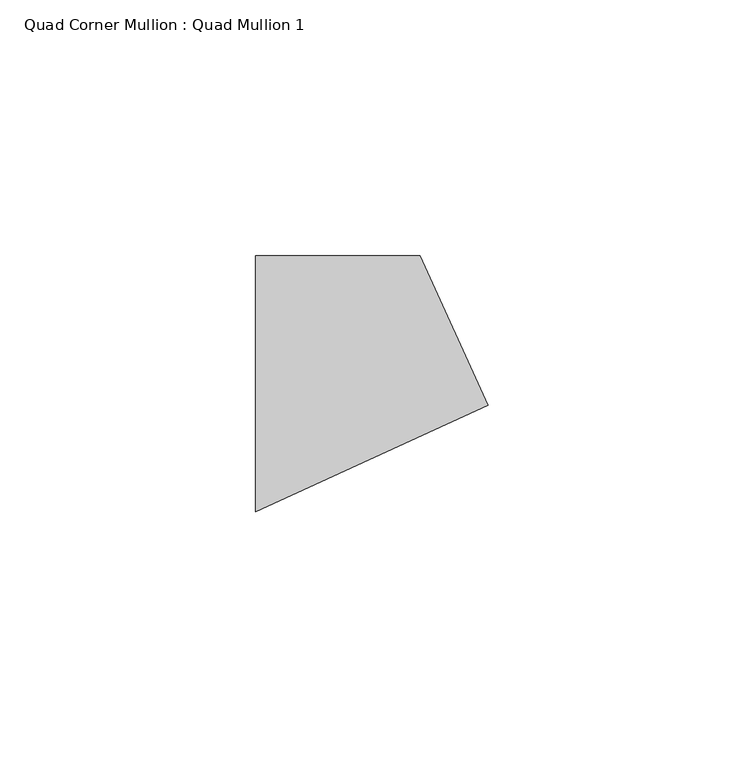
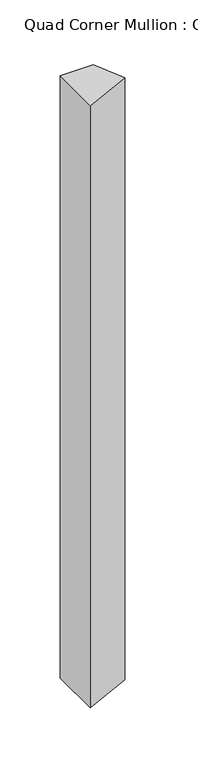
"""IFC4 building model written with IfcOpenShell, lengths in millimetres: member geometry, Quad Corner Mullion : Quad Mullion 1."""

import ifcopenshell
import ifcopenshell.guid

model = None  # the IFC model being written
_history = None  # IfcOwnerHistory: only IFC2X3 demands one
_inside = {}  # id of a spatial element -> (the spatial element, [elements in it])
_under = {}  # id of a project, library or spatial element -> (it, [spatial elements below it])
_declared = {}  # id of a project -> (the project, [libraries it declares])
_typed = {}  # id of a type object -> (the type object, [elements of that type])
_made_of = {}  # id of a material, layer set ... -> (it, [elements and type objects made of it])


def new_model(schema):
    """Start an empty IFC model of exactly this schema.

    Asked for "IFC4X3", IfcOpenShell would pick the latest addendum, in which some entities
    have other attributes; the version numbers below select the first issue.
    IFC2X3 requires an IfcOwnerHistory on every rooted entity: one is made here for all.
    """
    global model, _history
    if schema == "IFC4X3":
        model = ifcopenshell.file(schema_version=(4, 3, 0, 0))
    else:
        model = ifcopenshell.file(schema=schema)
    _inside.clear()
    _under.clear()
    _declared.clear()
    _typed.clear()
    _made_of.clear()
    _history = None
    if model.schema == "IFC2X3":
        org = make("IfcOrganization", Name="unknown")
        user = make(
            "IfcPersonAndOrganization",
            ThePerson=make("IfcPerson", FamilyName="unknown"),
            TheOrganization=org,
        )
        app = make(
            "IfcApplication",
            ApplicationDeveloper=org,
            Version="unknown",
            ApplicationFullName="unknown",
            ApplicationIdentifier="unknown",
        )
        _history = make(
            "IfcOwnerHistory",
            OwningUser=user,
            OwningApplication=app,
            ChangeAction="ADDED",
            CreationDate=0,
        )
    return model


def make(cls, **values):
    """One entity of the class cls with the attributes given. An attribute that is None is left unset."""
    return model.create_entity(
        cls, **{name: value for name, value in values.items() if value is not None}
    )


def rooted(cls, **values):
    """An entity with a GlobalId (a new one), such as an element, a storey or a relation."""
    return make(cls, GlobalId=ifcopenshell.guid.new(), OwnerHistory=_history, **values)


def si_unit(unit_type, name, prefix=None):
    """IfcSIUnit, for example si_unit("LENGTHUNIT", "METRE", prefix="MILLI")."""
    return make("IfcSIUnit", UnitType=unit_type, Prefix=prefix, Name=name)


def assignment(units):
    """IfcUnitAssignment: the units of a project."""
    return None if units is None else make("IfcUnitAssignment", Units=units)


def point(xyz):
    """IfcCartesianPoint."""
    return None if xyz is None else make("IfcCartesianPoint", Coordinates=xyz)


def direction(xyz):
    """IfcDirection."""
    return None if xyz is None else make("IfcDirection", DirectionRatios=xyz)


def frame(location, z_axis=None, x_axis=None):
    """IfcAxis2Placement3D, a coordinate frame: its origin and axes. An axis left out is left unset."""
    return make(
        "IfcAxis2Placement3D",
        Location=point(location),
        Axis=direction(z_axis),
        RefDirection=direction(x_axis),
    )


def origin():
    """The frame at (0, 0, 0) with its axes left unset."""
    return frame((0.0, 0.0, 0.0))


def place(relative_to, where):
    """IfcLocalPlacement: puts the frame where relative to a parent placement (None: the world)."""
    return make(
        "IfcLocalPlacement", PlacementRelTo=relative_to, RelativePlacement=where
    )


def context(
    kind, dimensions, precision=None, world=None, true_north=None, identifier=None
):
    """IfcGeometricRepresentationContext, for example the 3D "Model" context."""
    return make(
        "IfcGeometricRepresentationContext",
        ContextIdentifier=identifier,
        ContextType=kind,
        CoordinateSpaceDimension=dimensions,
        Precision=precision,
        WorldCoordinateSystem=world,
        TrueNorth=true_north,
    )


def project(units=None, contexts=None):
    """IfcProject with its units and contexts."""
    return rooted(
        "IfcProject",
        Name="project",
        RepresentationContexts=contexts,
        UnitsInContext=assignment(units),
    )


def spatial(cls, under=None, at=None, **own):
    """A site, building, storey or space (cls), placed at a placement, below another one or the project."""
    s = rooted(cls, ObjectPlacement=at, **own)
    if under is not None:
        _under.setdefault(under.id(), (under, []))[1].append(s)
    return s


def polyline(points):
    """IfcPolyline through the points."""
    return make("IfcPolyline", Points=[point(p) for p in points])


def outline(outer, holes=None, kind="AREA"):
    """IfcArbitraryClosedProfileDef: a profile drawn as a closed curve; with holes, ...WithVoids."""
    if holes is None:
        return make("IfcArbitraryClosedProfileDef", ProfileType=kind, OuterCurve=outer)
    return make(
        "IfcArbitraryProfileDefWithVoids",
        ProfileType=kind,
        OuterCurve=outer,
        InnerCurves=holes,
    )


def extrude(swept, where, along, depth):
    """IfcExtrudedAreaSolid: the profile swept, set in the frame where, extruded along a direction by depth."""
    return make(
        "IfcExtrudedAreaSolid",
        SweptArea=swept,
        Position=where,
        ExtrudedDirection=direction(along),
        Depth=depth,
    )


def shape(context_of_items, identifier, shape_type, items):
    """IfcShapeRepresentation: the items that make up one representation, for example the "Body"."""
    return make(
        "IfcShapeRepresentation",
        ContextOfItems=context_of_items,
        RepresentationIdentifier=identifier,
        RepresentationType=shape_type,
        Items=items,
    )


def source(mapping_origin, context_of_items, identifier, shape_type, items):
    """IfcRepresentationMap: a shape defined once, which mapped items show again and again."""
    return make(
        "IfcRepresentationMap",
        MappingOrigin=mapping_origin,
        MappedRepresentation=shape(context_of_items, identifier, shape_type, items),
    )


def transform(
    local_origin,
    x_axis=None,
    y_axis=None,
    z_axis=None,
    scale=None,
    scale2=None,
    scale3=None,
    uniform=True,
):
    """IfcCartesianTransformationOperator3D, or its non-uniform kind. x_axis, y_axis, z_axis: its Axis1, 2, 3."""
    if uniform:
        return make(
            "IfcCartesianTransformationOperator3D",
            Axis1=direction(x_axis),
            Axis2=direction(y_axis),
            LocalOrigin=point(local_origin),
            Scale=scale,
            Axis3=direction(z_axis),
        )
    return make(
        "IfcCartesianTransformationOperator3DnonUniform",
        Axis1=direction(x_axis),
        Axis2=direction(y_axis),
        LocalOrigin=point(local_origin),
        Scale=scale,
        Axis3=direction(z_axis),
        Scale2=scale2,
        Scale3=scale3,
    )


def mapped(mapping_source, mapping_target):
    """IfcMappedItem: shows the shape of a source again, moved by a transform."""
    return make(
        "IfcMappedItem", MappingSource=mapping_source, MappingTarget=mapping_target
    )


def made_of(thing, what):
    """Note that an element or type object is made of a material, layer set ...; save() writes the relation."""
    if what is not None:
        _made_of.setdefault(what.id(), (what, []))[1].append(thing)
    return thing


def element(
    cls,
    number,
    at=None,
    inside=None,
    cuts=None,
    type_object=None,
    material=None,
    context=None,
    identifier="Body",
    shape_type=None,
    held_by="IfcProductDefinitionShape",
    body=None,
    shapes=None,
    **own,
):
    """One element of the class cls, such as IfcWall. Its Tag is "e" and its number.

    at: its placement. inside: the storey or other place that contains it. cuts: it is an
    opening in that element (IfcRelVoidsElement). A single representation is given by context,
    identifier, shape_type and body (its items); several are given by shapes. held_by: the class
    of the entity that holds the representations. save() writes the other relations.
    """
    e = rooted(cls, Tag="e%d" % number, ObjectPlacement=at, **own)
    if body is not None:
        shapes = [shape(context, identifier, shape_type, body)]
    if shapes is not None:
        e.Representation = make(held_by, Representations=shapes)
    if inside is not None:
        _inside.setdefault(inside.id(), (inside, []))[1].append(e)
    if cuts is not None:
        rooted(
            "IfcRelVoidsElement", RelatingBuildingElement=cuts, RelatedOpeningElement=e
        )
    if type_object is not None:
        _typed.setdefault(type_object.id(), (type_object, []))[1].append(e)
    return made_of(e, material)


def aggregate(whole, parts):
    """IfcRelAggregates: a whole, such as a stair, and the parts it consists of."""
    return rooted("IfcRelAggregates", RelatingObject=whole, RelatedObjects=parts)


def save(model, path):
    """Write the relations noted so far, then the file.

    IfcRelAggregates (storeys below a building ...), IfcRelContainedInSpatialStructure (elements
    in a storey), IfcRelDefinesByType, IfcRelAssociatesMaterial and IfcRelDeclares: one each for
    every whole, place, type object, material and project.
    """
    for whole, parts in _under.values():
        aggregate(whole, parts)
    for where, things in _inside.values():
        rooted(
            "IfcRelContainedInSpatialStructure",
            RelatedElements=things,
            RelatingStructure=where,
        )
    for kind, things in _typed.values():
        rooted("IfcRelDefinesByType", RelatedObjects=things, RelatingType=kind)
    for what, things in _made_of.values():
        rooted("IfcRelAssociatesMaterial", RelatedObjects=things, RelatingMaterial=what)
    for by, libraries in _declared.values():
        rooted("IfcRelDeclares", RelatingContext=by, RelatedDefinitions=libraries)
    model.write(path)


def quad_corner_mullion_quad_mullion_1_4333d0f4(model_context):
    return source(origin(), model_context, "Body", "SweptSolid", [
        extrude(outline(polyline([(29.4125559, -4.1926582), (-16.0523154, -25.0), (-16.0523154, 25.0), (16.0523154, 25.0), (29.4125559, -4.1926582)])), frame((0.0, 0.0, -611.9639471), z_axis=(0.0, 0.0, 1.0), x_axis=(1.0, 0.0, 0.0)), (0.0, 0.0, 1.0), 611.9639471),
    ])


if __name__ == "__main__":
    model = new_model("IFC4")
    model_context = context("Model", 3, world=origin())
    ifc_project = project(units=[si_unit("LENGTHUNIT", "METRE", prefix="MILLI")], contexts=[model_context])
    site = spatial("IfcSite", under=ifc_project)
    building = spatial("IfcBuilding", under=site)
    placement = place(None, origin())
    quad_corner_mullion_quad_mullion_1_shape = quad_corner_mullion_quad_mullion_1_4333d0f4(model_context)
    element("IfcMember", 1, ObjectType="Quad Corner Mullion : Quad Mullion 1", at=placement, inside=building, context=model_context, shape_type="MappedRepresentation", body=[
        mapped(quad_corner_mullion_quad_mullion_1_shape, transform((0.0, 0.0, 0.0), x_axis=(1.0, 0.0, 0.0), y_axis=(0.0, 1.0, 0.0), z_axis=(0.0, 0.0, 1.0))),
    ])
    save(model, "model.ifc")
